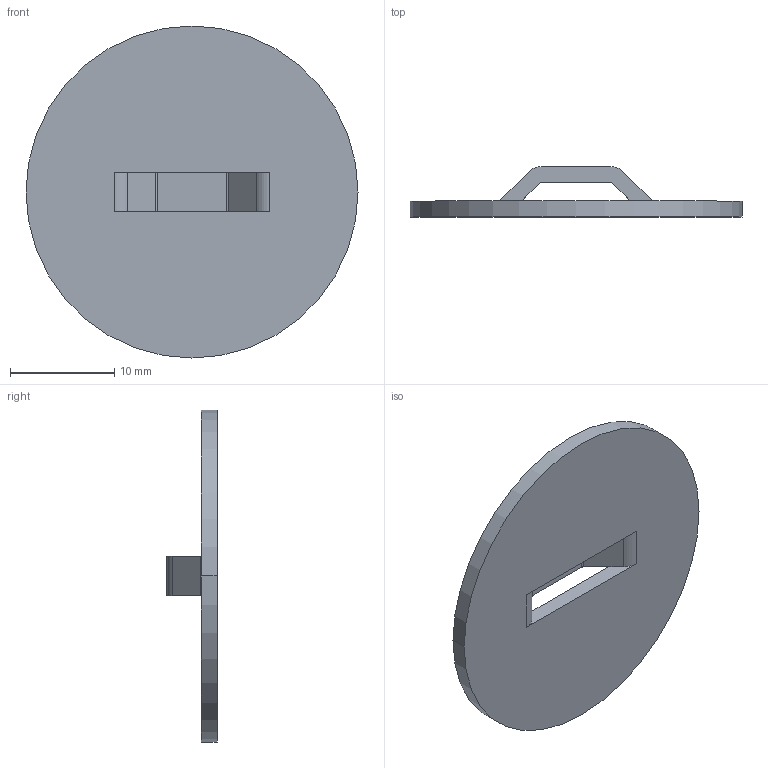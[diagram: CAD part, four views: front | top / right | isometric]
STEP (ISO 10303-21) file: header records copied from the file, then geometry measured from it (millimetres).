
FILE_DESCRIPTION (( 'STEP AP203' ), '1' );
FILE_NAME ('987348 - 50 -BRIDGE LANCE SGL .580X.150X.130 HIGH .060 MAT.STEP', '2024-11-18T17:19:57', ( '' ), ( '' ), 'SwSTEP 2.0', 'SolidWorks 2024', '' );
FILE_SCHEMA (( 'CONFIG_CONTROL_DESIGN' ));
Length unit declared in the file: inch
Products named in the file (1): 987348 - 50 -BRIDGE LANCE SGL .580X.150X.130 HIGH .060 MAT
Bounding box: 31.81 x 4.83 x 31.81 mm (x, y, z)
Volume: 1226.1 mm3; surface area: 1842.6 mm2
Topology: 1 solids, 1 shells, 22 faces, 62 edges, 40 vertices
Faces by surface type: plane 12, cylinder 10
Entity records: 801 total; most frequent: DIRECTION 128, CARTESIAN_POINT 125, ORIENTED_EDGE 124, EDGE_CURVE 62, AXIS2_PLACEMENT_3D 43, VECTOR 42, LINE 42, VERTEX_POINT 40
